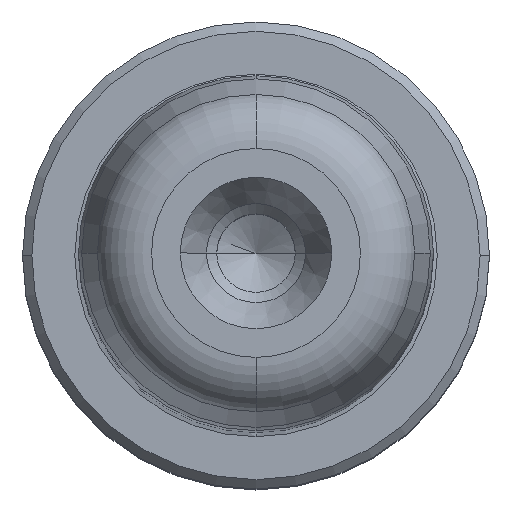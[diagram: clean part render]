
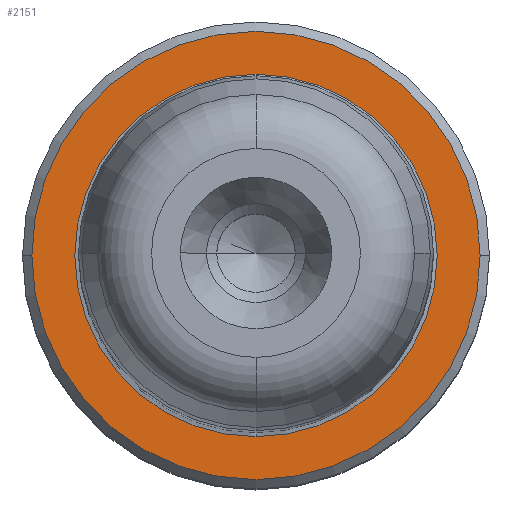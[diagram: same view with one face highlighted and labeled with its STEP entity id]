
A CAD part, top view. The second image highlights one B-rep face of the part: STEP entity #2151.
In plain terms, the highlighted planar face has unit normal (0, 0, 1).
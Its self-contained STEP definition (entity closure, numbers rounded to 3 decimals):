
#928=CARTESIAN_POINT('',(0.0,-9.7,3.3));
#929=VERTEX_POINT('',#928);
#937=CARTESIAN_POINT('',(9.7,0.,3.3));
#938=VERTEX_POINT('',#937);
#939=CARTESIAN_POINT('',(0.0,0.,3.3));
#940=DIRECTION('',(0.0,0.0,1.0));
#941=DIRECTION('',(1.0,0.0,0.0));
#942=AXIS2_PLACEMENT_3D('',#939,#940,#941);
#943=CIRCLE('',#942,9.7);
#944=EDGE_CURVE('',#929,#938,#943,.T.);
#946=CARTESIAN_POINT('',(0.,9.7,3.3));
#947=VERTEX_POINT('',#946);
#948=CARTESIAN_POINT('',(0.0,0.,3.3));
#949=DIRECTION('',(0.0,0.0,1.0));
#950=DIRECTION('',(1.0,0.0,0.0));
#951=AXIS2_PLACEMENT_3D('',#948,#949,#950);
#952=CIRCLE('',#951,9.7);
#953=EDGE_CURVE('',#938,#947,#952,.T.);
#980=CARTESIAN_POINT('',(12.0,0.,3.3));
#981=VERTEX_POINT('',#980);
#990=CARTESIAN_POINT('',(-12.,0.,3.3));
#991=VERTEX_POINT('',#990);
#992=CARTESIAN_POINT('',(0.0,0.,3.3));
#993=DIRECTION('',(0.0,0.0,1.0));
#994=DIRECTION('',(1.0,0.0,0.0));
#995=AXIS2_PLACEMENT_3D('',#992,#993,#994);
#996=CIRCLE('',#995,12.0);
#997=EDGE_CURVE('',#991,#981,#996,.T.);
#2121=CARTESIAN_POINT('',(0.0,0.,3.3));
#2122=DIRECTION('',(0.0,0.0,1.0));
#2123=DIRECTION('',(1.0,0.0,0.0));
#2124=AXIS2_PLACEMENT_3D('',#2121,#2122,#2123);
#2125=CIRCLE('',#2124,12.0);
#2126=EDGE_CURVE('',#981,#991,#2125,.T.);
#2131=CARTESIAN_POINT('',(10.85,0.,3.3));
#2132=DIRECTION('',(0.0,0.0,1.0));
#2133=DIRECTION('',(0.0,-1.0,0.0));
#2134=AXIS2_PLACEMENT_3D('',#2131,#2132,#2133);
#2135=PLANE('',#2134);
#2136=ORIENTED_EDGE('',*,*,#2126,.T.);
#2137=ORIENTED_EDGE('',*,*,#997,.T.);
#2138=EDGE_LOOP('',(#2136,#2137));
#2139=FACE_OUTER_BOUND('',#2138,.T.);
#2140=ORIENTED_EDGE('',*,*,#953,.F.);
#2141=ORIENTED_EDGE('',*,*,#944,.F.);
#2142=CARTESIAN_POINT('',(0.0,0.,3.3));
#2143=DIRECTION('',(0.0,0.0,1.0));
#2144=DIRECTION('',(1.0,0.0,0.0));
#2145=AXIS2_PLACEMENT_3D('',#2142,#2143,#2144);
#2146=CIRCLE('',#2145,9.7);
#2147=EDGE_CURVE('',#947,#929,#2146,.T.);
#2148=ORIENTED_EDGE('',*,*,#2147,.F.);
#2149=EDGE_LOOP('',(#2140,#2141,#2148));
#2150=FACE_BOUND('',#2149,.T.);
#2151=ADVANCED_FACE('',(#2139,#2150),#2135,.T.);
